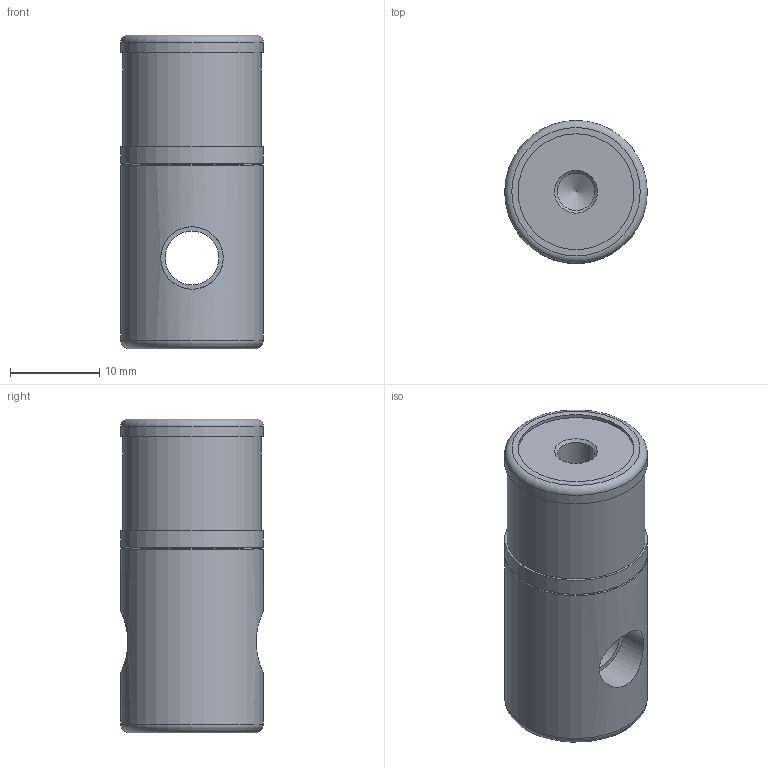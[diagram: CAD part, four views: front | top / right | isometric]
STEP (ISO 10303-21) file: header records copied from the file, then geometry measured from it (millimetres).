
FILE_DESCRIPTION(('STEP AP242'),'1');
FILE_NAME('A.6006 Feststellpatrone.stp','2026-04-23T09:35:06',(' '),(' '),'Spatial InterOp 3D',' ',' ');
FILE_SCHEMA(('AP242_MANAGED_MODEL_BASED_3D_ENGINEERING_MIM_LF {1 0 10303 442 1 1 4}'));
Length unit declared in the file: millimetre
Products named in the file (1): A.6006 Feststellpatrone
Bounding box: 16 x 16 x 35.2 mm (x, y, z)
Volume: 6232.1 mm3; surface area: 2524.8 mm2
Topology: 1 solids, 1 shells, 23 faces, 42 edges, 26 vertices
Faces by surface type: cylinder 10, plane 7, cone 4, torus 2
Full cylindrical faces by diameter (mm): 4.2 x2, 6 x1, 7 x2, 13 x1, 15.5 x1, 16 x3
Entity records: 867 total; most frequent: CARTESIAN_POINT 197, DIRECTION 90, EDGE_LOOP 46, ORIENTED_EDGE 46, AXIS2_PLACEMENT_3D 45, FACE_OUTER_BOUND 35, STYLED_ITEM 24, PRESENTATION_STYLE_ASSIGNMENT 24
